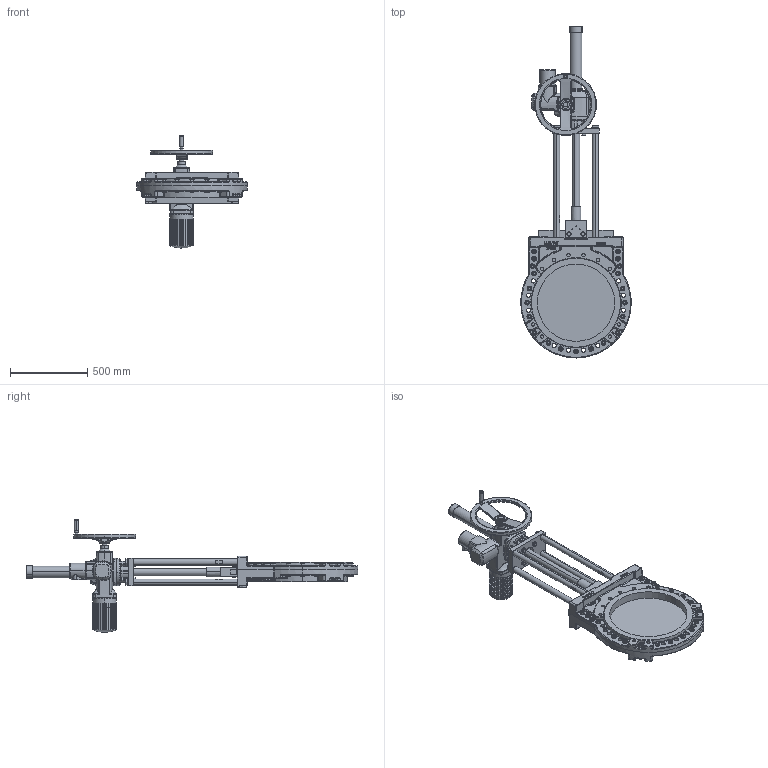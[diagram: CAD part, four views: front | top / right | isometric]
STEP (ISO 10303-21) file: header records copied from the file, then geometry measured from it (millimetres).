
FILE_DESCRIPTION (( 'STEP AP214' ), '1' );
FILE_NAME ('MGE DN 0500 PN10 (SA 14.6).STEP', '2015-09-23T08:43:25', ( 'admin' ), ( 'Hewlett-Packard Company' ), 'SwSTEP 2.0', 'SolidWorks 2013', '' );
FILE_SCHEMA (( 'AUTOMOTIVE_DESIGN' ));
Length unit declared in the file: millimetre
Products named in the file (1): MGE DN 0500 PN10 (SA 14.6)
Bounding box: 715 x 2146.5 x 727 mm (x, y, z)
Volume: 59662810.7 mm3; surface area: 3750030.5 mm2
Topology: 108 solids, 126 shells, 3889 faces, 8897 edges, 5345 vertices
Faces by surface type: plane 1365, cylinder 1079, cone 661, bspline 446, torus 296, sphere 42
Entity records: 185539 total; most frequent: CARTESIAN_POINT 56908, ORIENTED_EDGE 17622, DIRECTION 17495, EDGE_CURVE 8811, AXIS2_PLACEMENT_3D 7146, VERTEX_POINT 5345, EDGE_LOOP 4320, UNCERTAINTY_MEASURE_WITH_UNIT 3993
